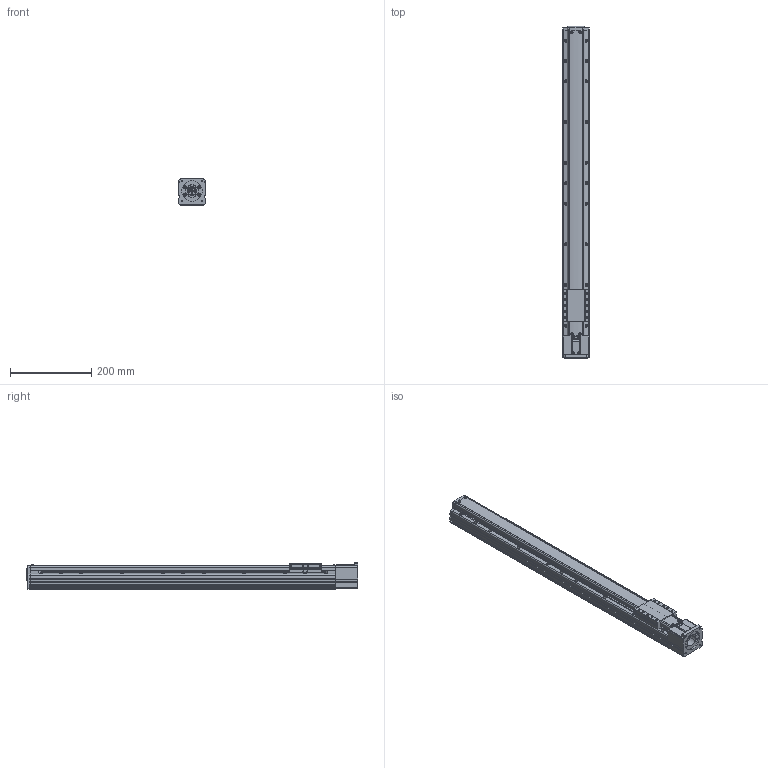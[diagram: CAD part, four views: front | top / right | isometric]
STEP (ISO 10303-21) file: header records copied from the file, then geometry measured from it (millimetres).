
FILE_DESCRIPTION(('STEP AP214'),'1');
FILE_NAME('Z:/Web/3D/PSA65/STP/PSA65-600 (3D)/PSA65ㅁㅁ-600S.stp','2014-06-25T05:05:00',(' '),(' '),'Spatial InterOp 3D',' ',' ');
FILE_SCHEMA(('automotive_design'));
Length unit declared in the file: millimetre
Products named in the file (80): SLIDE; RRCV-PA060; 1; 2; 3; 4; 5; 6; 7; 8; 9; 10; 11; 12; 13; 14; 15; 16; 17; 18; 19; 20; 21; 22; 23; 24; 25; 26; 27; 28; 29; 30; 31; 스크루 : Round - M3.0 x 8.0; RN8 x 0.75; SHAFT-SAN65; BASE; 스크루 : Round - M3.0 x 6.0; MTHZ - PSA65-60A; CPLCV-SAN45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
Bounding box: 65 x 814.8 x 65 mm (x, y, z)
Volume: 2498866.6 mm3; surface area: 342113.6 mm2
Topology: 80 solids, 80 shells, 2408 faces, 6377 edges, 4079 vertices
Faces by surface type: plane 1222, cylinder 788, cone 325, sphere 30, bspline 23, torus 20
Entity records: 96886 total; most frequent: CARTESIAN_POINT 15540, DIRECTION 13109, ORIENTED_EDGE 12494, EDGE_CURVE 6247, AXIS2_PLACEMENT_3D 4586, VERTEX_POINT 4079, LINE 3937, VECTOR 3937
